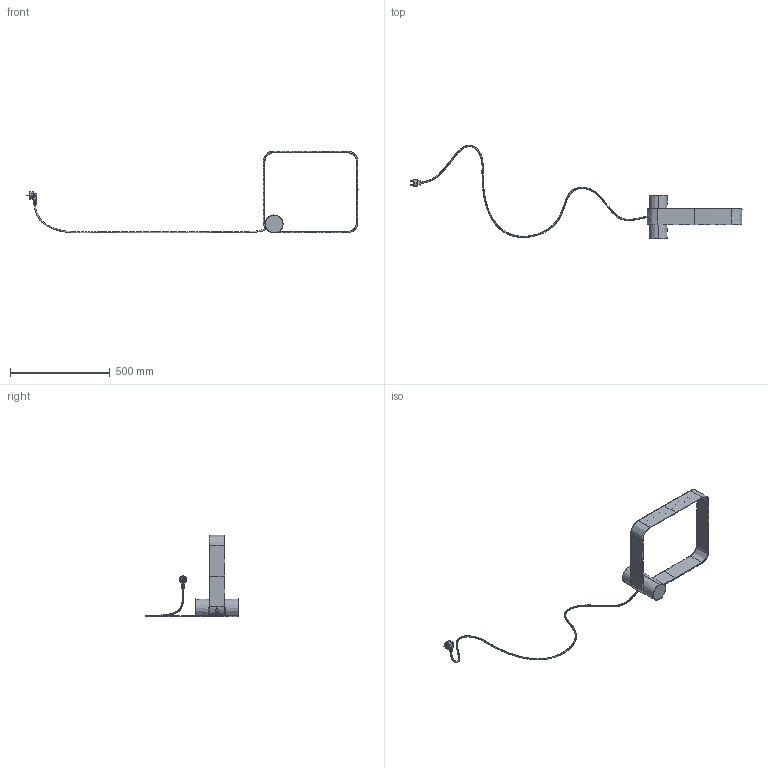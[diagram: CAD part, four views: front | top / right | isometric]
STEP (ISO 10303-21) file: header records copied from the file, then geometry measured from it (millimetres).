
FILE_DESCRIPTION(/* description */ (''),/* implementation_level */ '2;1');
FILE_NAME(/* name */ '58H8PM~G',/* time_stamp */ '2021-09-21T17:12:54+02:00',/* author */ (''),/* organization */ (''),/* preprocessor_version */ 'ST-DEVELOPER v15',/* originating_system */ '',/* authorisation */ '');
FILE_SCHEMA (('AUTOMOTIVE_DESIGN'));
Products named in the file (1): Document
Bounding box: 1664.82 x 468.75 x 410.75 mm (x, y, z)
Volume: 179825.1 mm3; surface area: 488165.9 mm2
Topology: 12 solids, 14 shells, 1356 faces, 3517 edges, 2132 vertices
Faces by surface type: bspline 1356
Entity records: 115834 total; most frequent: CARTESIAN_POINT 72973, B_SPLINE_CURVE_WITH_KNOTS 8420, ORIENTED_EDGE 6848, PCURVE 6848, DEFINITIONAL_REPRESENTATION 6848, SURFACE_CURVE 3484, EDGE_CURVE 3484, VERTEX_POINT 2134
